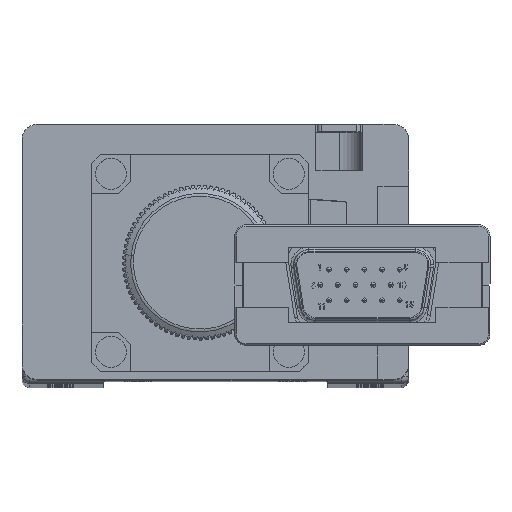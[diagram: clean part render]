
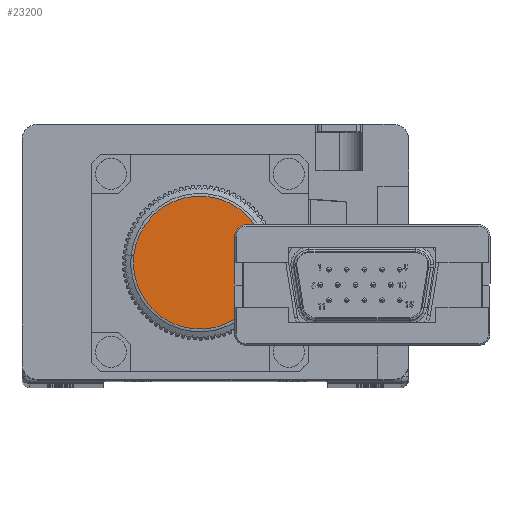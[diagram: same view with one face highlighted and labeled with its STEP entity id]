
A CAD part, top view. The second image highlights one B-rep face of the part: STEP entity #23200.
In plain terms, the highlighted planar face has unit normal (0, 0, 1).
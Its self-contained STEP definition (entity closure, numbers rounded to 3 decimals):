
#1814 = CARTESIAN_POINT ( 'NONE',  ( -2., 15.5, 387. ) ) ;
#7384 = DIRECTION ( 'NONE',  ( 0., 0., 1. ) ) ;
#16555 = CARTESIAN_POINT ( 'NONE',  ( 6.552, 14.589, 387. ) ) ;
#18855 = EDGE_LOOP ( 'NONE', ( #53081, #119884 ) ) ;
#19169 = DIRECTION ( 'NONE',  ( 0., 0., -1. ) ) ;
#19358 = AXIS2_PLACEMENT_3D ( 'NONE', #1814, #68718, #39781 ) ;
#20388 = AXIS2_PLACEMENT_3D ( 'NONE', #50046, #19169, #78356 ) ;
#23200 = ADVANCED_FACE ( 'NONE', ( #68075 ), #107331, .F. ) ;
#36328 = DIRECTION ( 'NONE',  ( -0.994, 0.106, 0. ) ) ;
#39781 = DIRECTION ( 'NONE',  ( -0.994, 0.106, 0. ) ) ;
#41978 = CIRCLE ( 'NONE', #19358, 8.6 ) ;
#45336 = CARTESIAN_POINT ( 'NONE',  ( -2., 15.5, 387. ) ) ;
#50046 = CARTESIAN_POINT ( 'NONE',  ( -2., 15.5, 387. ) ) ;
#53081 = ORIENTED_EDGE ( 'NONE', *, *, #76671, .T. ) ;
#63425 = VERTEX_POINT ( 'NONE', #16555 ) ;
#68075 = FACE_OUTER_BOUND ( 'NONE', #18855, .T. ) ;
#68718 = DIRECTION ( 'NONE',  ( 0., 0., 1. ) ) ;
#76081 = VERTEX_POINT ( 'NONE', #125583 ) ;
#76671 = EDGE_CURVE ( 'NONE', #76081, #63425, #110941, .T. ) ;
#78356 = DIRECTION ( 'NONE',  ( -0.994, 0.106, 0. ) ) ;
#102745 = AXIS2_PLACEMENT_3D ( 'NONE', #45336, #7384, #36328 ) ;
#107331 = PLANE ( 'NONE',  #20388 ) ;
#110941 = CIRCLE ( 'NONE', #102745, 8.6 ) ;
#111255 = EDGE_CURVE ( 'NONE', #63425, #76081, #41978, .T. ) ;
#119884 = ORIENTED_EDGE ( 'NONE', *, *, #111255, .T. ) ;
#125583 = CARTESIAN_POINT ( 'NONE',  ( -10.552, 16.411, 387. ) ) ;
